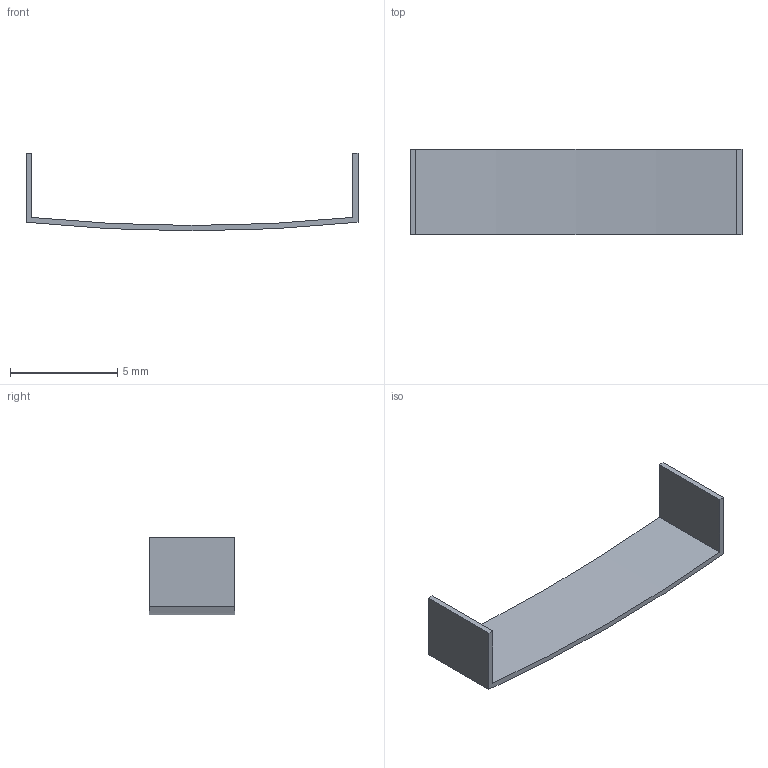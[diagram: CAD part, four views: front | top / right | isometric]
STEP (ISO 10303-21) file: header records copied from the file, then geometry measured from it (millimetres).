
FILE_DESCRIPTION(/* description */ ('Unknown'),/* implementation_level */ '2;1');
FILE_NAME(/* name */ 'BSN0801',/* time_stamp */ '2018-11-12T17:31:40+00:00',/* author */ ('Unknown'),/* organization */ ('Unknown'),/* preprocessor_version */ 'ST-DEVELOPER v16.7',/* originating_system */ 'DEX',/* authorisation */ $);
FILE_SCHEMA (('AUTOMOTIVE_DESIGN {1 0 10303 214 3 1 1}'));
Length unit declared in the file: millimetre
Products named in the file (1): BSN0801
Bounding box: 15.5 x 4 x 3.63 mm (x, y, z)
Volume: 21.5 mm3; surface area: 184.8 mm2
Topology: 1 solids, 1 shells, 10 faces, 24 edges, 16 vertices
Faces by surface type: plane 8, cylinder 2
Entity records: 322 total; most frequent: CARTESIAN_POINT 51, DIRECTION 50, ORIENTED_EDGE 48, EDGE_CURVE 24, LINE 20, VECTOR 20, VERTEX_POINT 16, AXIS2_PLACEMENT_3D 15
